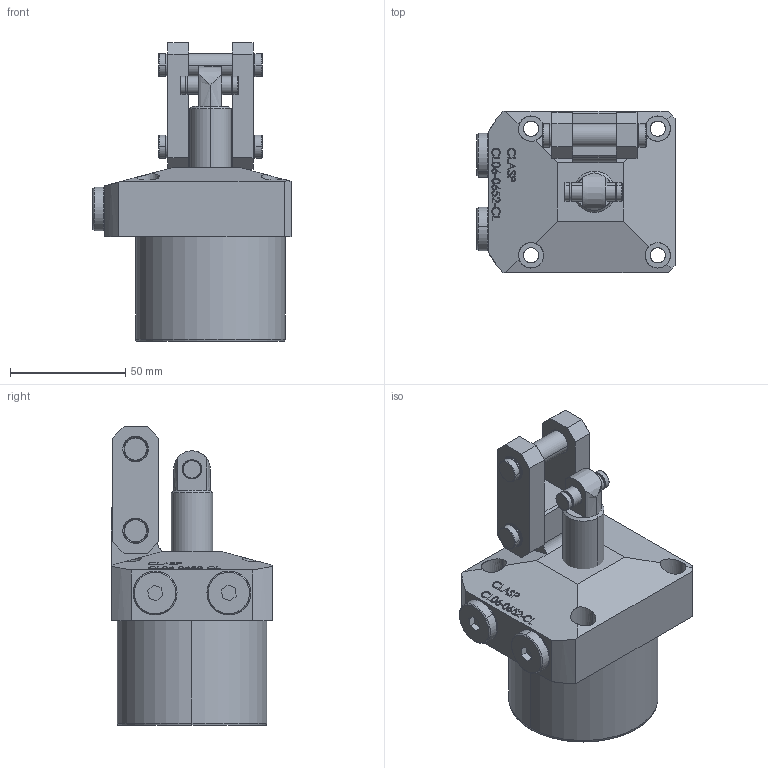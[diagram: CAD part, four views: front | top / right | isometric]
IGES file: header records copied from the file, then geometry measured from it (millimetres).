
Start section: SolidWorks IGES file using analytic representation for surfaces
Global section: file name: D:\karuppas\Clasp\3D model\Link clamp cylinder\CL06-0652  CL\CL06-0652cl.IGS; native system: SolidWorks 2017; preprocessor: SolidWorks 2017; author: pc; date: 220705.230550; units: millimetre
Bounding box: 86 x 70 x 129.75 mm (x, y, z)
Surface area: 51595.2 mm2 (no closed solid volume)
Topology: 0 solids, 0 shells, 423 faces, 6597 edges, 6593 vertices
Faces by surface type: bspline 284, revolution 139
